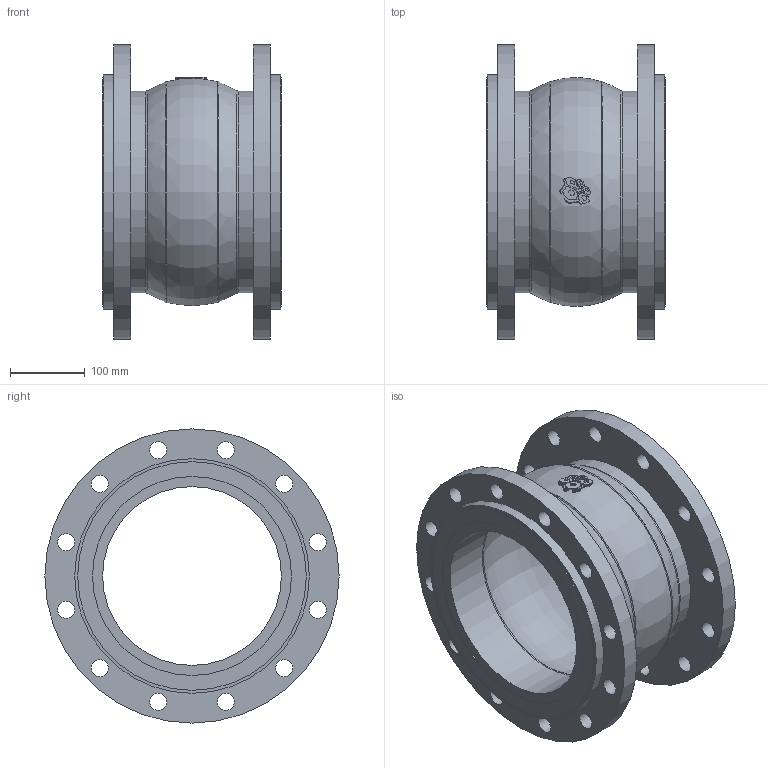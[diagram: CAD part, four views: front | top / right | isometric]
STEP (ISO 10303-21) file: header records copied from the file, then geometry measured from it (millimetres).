
FILE_DESCRIPTION(('STEP AP203'), '1');
FILE_NAME('3D_500-250-EPDM-FF_1', '', ('UNSPECIFIED'), ('UNSPECIFIED'), 'C3D Converter', 'C3D Toolkit', '');
FILE_SCHEMA(('CONFIG_CONTROL_DESIGN'));
Length unit declared in the file: millimetre
Bounding box: 240 x 395 x 395 mm (x, y, z)
Volume: 6572658.4 mm3; surface area: 750932.2 mm2
Topology: 9 solids, 9 shells, 887 faces, 2602 edges, 1741 vertices
Faces by surface type: plane 839, cylinder 36, torus 12
Full cylindrical faces by diameter (mm): 23 x24, 240 x2, 267 x2, 271 x2, 307 x2, 315 x2, 395 x2
Entity records: 36026 total; most frequent: CARTESIAN_POINT 5183, ORIENTED_EDGE 5108, DIRECTION 4445, EDGE_CURVE 2554, LINE 2439, VECTOR 2439, VERTEX_POINT 1741, EDGE_LOOP 1005
